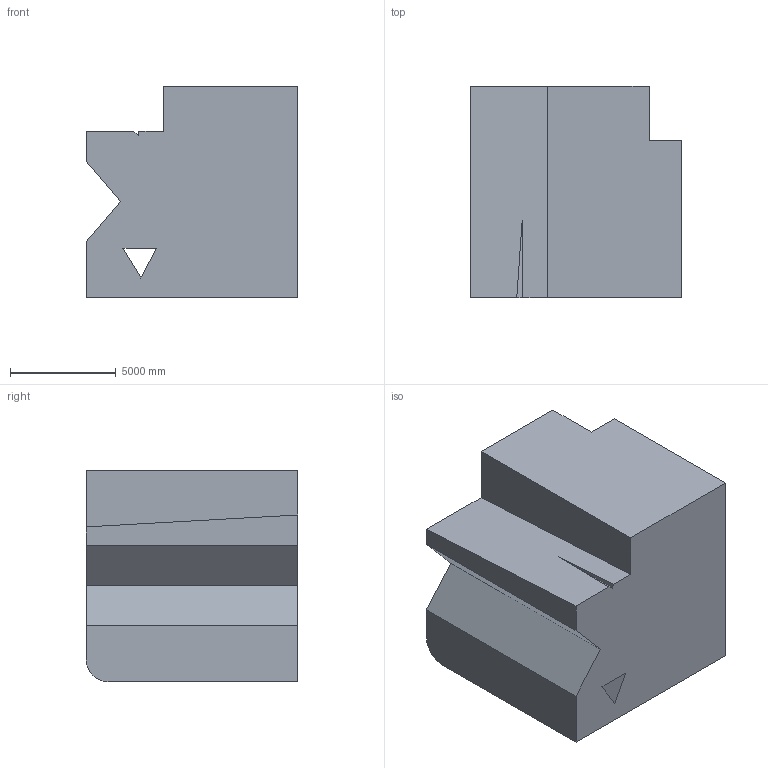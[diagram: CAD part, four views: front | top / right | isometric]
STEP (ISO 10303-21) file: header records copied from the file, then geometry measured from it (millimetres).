
FILE_DESCRIPTION (( 'STEP AP203' ), '1' );
FILE_NAME ('1581.STEP', '2022-08-18T15:56:40', ( 'user' ), ( '' ), 'SwSTEP 2.0', 'SolidWorks 2021', '' );
FILE_SCHEMA (( 'CONFIG_CONTROL_DESIGN' ));
Length unit declared in the file: centimetre
Products named in the file (1): 1581
Bounding box: 10000 x 10000 x 10000 mm (x, y, z)
Volume: 829046952166.6 mm3; surface area: 622566715.5 mm2
Topology: 1 solids, 1 shells, 19 faces, 54 edges, 36 vertices
Faces by surface type: plane 18, cylinder 1
Entity records: 691 total; most frequent: CARTESIAN_POINT 116, ORIENTED_EDGE 108, DIRECTION 94, EDGE_CURVE 54, VECTOR 50, LINE 50, VERTEX_POINT 36, AXIS2_PLACEMENT_3D 22
